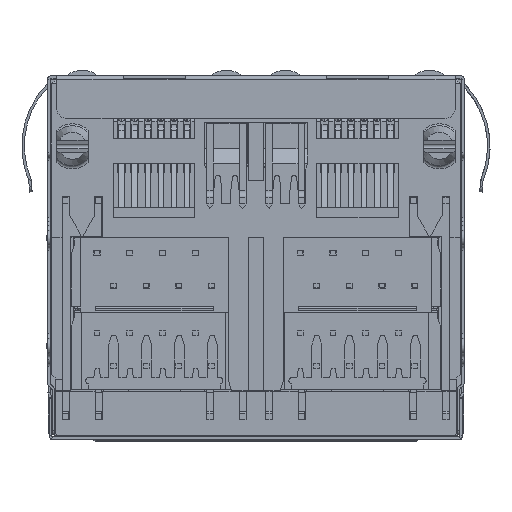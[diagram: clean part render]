
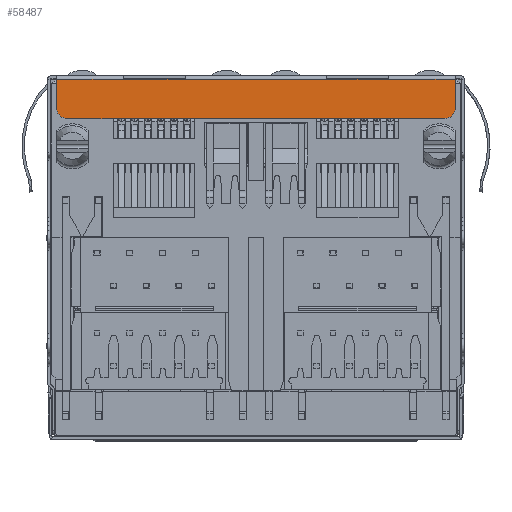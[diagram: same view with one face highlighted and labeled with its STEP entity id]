
A CAD part, front view. The second image highlights one B-rep face of the part: STEP entity #58487.
In plain terms, the highlighted planar face has unit normal (0, -1, 0).
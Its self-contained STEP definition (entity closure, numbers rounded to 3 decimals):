
#558 = VERTEX_POINT ( 'NONE', #117801 ) ;
#1265 = CARTESIAN_POINT ( 'NONE',  ( -15.973, 2.76, -3.24 ) ) ;
#3383 = DIRECTION ( 'NONE',  ( 0., -1., 0. ) ) ;
#4323 = CARTESIAN_POINT ( 'NONE',  ( -41.698, 2.76, -0.99 ) ) ;
#6201 = DIRECTION ( 'NONE',  ( 0., 0., -1. ) ) ;
#12779 = VERTEX_POINT ( 'NONE', #22142 ) ;
#14287 = CARTESIAN_POINT ( 'NONE',  ( -46.073, 2.76, -4.04 ) ) ;
#17352 = VERTEX_POINT ( 'NONE', #110660 ) ;
#18406 = ORIENTED_EDGE ( 'NONE', *, *, #25833, .T. ) ;
#19226 = ORIENTED_EDGE ( 'NONE', *, *, #59126, .T. ) ;
#22142 = CARTESIAN_POINT ( 'NONE',  ( -46.073, 2.76, -4.04 ) ) ;
#23794 = AXIS2_PLACEMENT_3D ( 'NONE', #61776, #75238, #56170 ) ;
#25226 = VECTOR ( 'NONE', #79379, 1000. ) ;
#25833 = EDGE_CURVE ( 'NONE', #121063, #33213, #67556, .T. ) ;
#27144 = DIRECTION ( 'NONE',  ( 0., 0., 1. ) ) ;
#27926 = ORIENTED_EDGE ( 'NONE', *, *, #30724, .F. ) ;
#29225 = VERTEX_POINT ( 'NONE', #52437 ) ;
#29340 = DIRECTION ( 'NONE',  ( 1., 0., 0. ) ) ;
#29821 = DIRECTION ( 'NONE',  ( -1., 0., 0. ) ) ;
#30724 = EDGE_CURVE ( 'NONE', #43119, #33213, #64459, .T. ) ;
#31668 = CARTESIAN_POINT ( 'NONE',  ( -23.079, 2.76, -0.94 ) ) ;
#33213 = VERTEX_POINT ( 'NONE', #64968 ) ;
#33310 = VECTOR ( 'NONE', #94885, 1000. ) ;
#41882 = VERTEX_POINT ( 'NONE', #53822 ) ;
#43119 = VERTEX_POINT ( 'NONE', #108388 ) ;
#43590 = VECTOR ( 'NONE', #6201, 1000. ) ;
#43734 = CARTESIAN_POINT ( 'NONE',  ( -46.873, 2.76, -0.99 ) ) ;
#44440 = LINE ( 'NONE', #14287, #64669 ) ;
#46571 = ORIENTED_EDGE ( 'NONE', *, *, #95387, .T. ) ;
#48114 = CARTESIAN_POINT ( 'NONE',  ( -25.948, 2.76, -0.99 ) ) ;
#49487 = EDGE_CURVE ( 'NONE', #558, #29225, #88626, .T. ) ;
#50344 = EDGE_CURVE ( 'NONE', #43119, #17352, #56126, .T. ) ;
#51135 = LINE ( 'NONE', #43734, #43590 ) ;
#52437 = CARTESIAN_POINT ( 'NONE',  ( -46.873, 2.76, -0.99 ) ) ;
#53494 = ORIENTED_EDGE ( 'NONE', *, *, #121803, .T. ) ;
#53822 = CARTESIAN_POINT ( 'NONE',  ( -15.973, 2.76, -3.24 ) ) ;
#54635 = EDGE_CURVE ( 'NONE', #29225, #57124, #51135, .T. ) ;
#55723 = ORIENTED_EDGE ( 'NONE', *, *, #83296, .T. ) ;
#56126 = LINE ( 'NONE', #48114, #33310 ) ;
#56170 = DIRECTION ( 'NONE',  ( 0., 0., -1. ) ) ;
#57124 = VERTEX_POINT ( 'NONE', #108421 ) ;
#58487 = ADVANCED_FACE ( 'NONE', ( #79042 ), #96918, .T. ) ;
#59126 = EDGE_CURVE ( 'NONE', #41882, #121063, #92999, .T. ) ;
#59312 = EDGE_CURVE ( 'NONE', #558, #17352, #89839, .T. ) ;
#61261 = ORIENTED_EDGE ( 'NONE', *, *, #49487, .T. ) ;
#61776 = CARTESIAN_POINT ( 'NONE',  ( -16.773, 2.76, -3.24 ) ) ;
#61980 = AXIS2_PLACEMENT_3D ( 'NONE', #106773, #86453, #29821 ) ;
#64459 = LINE ( 'NONE', #92805, #117644 ) ;
#64669 = VECTOR ( 'NONE', #81955, 1000. ) ;
#64968 = CARTESIAN_POINT ( 'NONE',  ( -21.148, 2.76, -0.99 ) ) ;
#67556 = LINE ( 'NONE', #75596, #105146 ) ;
#68602 = CARTESIAN_POINT ( 'NONE',  ( -16.773, 2.76, -4.04 ) ) ;
#69890 = ORIENTED_EDGE ( 'NONE', *, *, #54635, .T. ) ;
#73818 = VERTEX_POINT ( 'NONE', #68602 ) ;
#75238 = DIRECTION ( 'NONE',  ( 0., -1., 0. ) ) ;
#75596 = CARTESIAN_POINT ( 'NONE',  ( -15.973, 2.76, -0.99 ) ) ;
#76206 = AXIS2_PLACEMENT_3D ( 'NONE', #31668, #3383, #116630 ) ;
#76381 = VECTOR ( 'NONE', #82393, 1000. ) ;
#79042 = FACE_OUTER_BOUND ( 'NONE', #101672, .T. ) ;
#79379 = DIRECTION ( 'NONE',  ( -1., 0., 0. ) ) ;
#81955 = DIRECTION ( 'NONE',  ( 1., 0., 0. ) ) ;
#82023 = ORIENTED_EDGE ( 'NONE', *, *, #50344, .T. ) ;
#82393 = DIRECTION ( 'NONE',  ( 1., 0., 0. ) ) ;
#83296 = EDGE_CURVE ( 'NONE', #57124, #12779, #89511, .T. ) ;
#84822 = DIRECTION ( 'NONE',  ( -1., 0., 0. ) ) ;
#86453 = DIRECTION ( 'NONE',  ( 0., -1., 0. ) ) ;
#88626 = LINE ( 'NONE', #4323, #25226 ) ;
#89511 = CIRCLE ( 'NONE', #61980, 0.8 ) ;
#89839 = LINE ( 'NONE', #90445, #76381 ) ;
#90445 = CARTESIAN_POINT ( 'NONE',  ( -41.698, 2.76, -0.99 ) ) ;
#92805 = CARTESIAN_POINT ( 'NONE',  ( -25.948, 2.76, -0.99 ) ) ;
#92999 = LINE ( 'NONE', #1265, #101916 ) ;
#94885 = DIRECTION ( 'NONE',  ( -1., 0., 0. ) ) ;
#95387 = EDGE_CURVE ( 'NONE', #12779, #73818, #44440, .T. ) ;
#96918 = PLANE ( 'NONE',  #76206 ) ;
#97303 = ORIENTED_EDGE ( 'NONE', *, *, #59312, .F. ) ;
#101672 = EDGE_LOOP ( 'NONE', ( #61261, #69890, #55723, #46571, #53494, #19226, #18406, #27926, #82023, #97303 ) ) ;
#101916 = VECTOR ( 'NONE', #27144, 1000. ) ;
#105146 = VECTOR ( 'NONE', #84822, 1000. ) ;
#106773 = CARTESIAN_POINT ( 'NONE',  ( -46.073, 2.76, -3.24 ) ) ;
#108388 = CARTESIAN_POINT ( 'NONE',  ( -25.948, 2.76, -0.99 ) ) ;
#108421 = CARTESIAN_POINT ( 'NONE',  ( -46.873, 2.76, -3.24 ) ) ;
#110660 = CARTESIAN_POINT ( 'NONE',  ( -36.898, 2.76, -0.99 ) ) ;
#113935 = CARTESIAN_POINT ( 'NONE',  ( -15.973, 2.76, -0.99 ) ) ;
#116630 = DIRECTION ( 'NONE',  ( 0., 0., -1. ) ) ;
#117644 = VECTOR ( 'NONE', #29340, 1000. ) ;
#117801 = CARTESIAN_POINT ( 'NONE',  ( -41.698, 2.76, -0.99 ) ) ;
#120109 = CIRCLE ( 'NONE', #23794, 0.8 ) ;
#121063 = VERTEX_POINT ( 'NONE', #113935 ) ;
#121803 = EDGE_CURVE ( 'NONE', #73818, #41882, #120109, .T. ) ;
